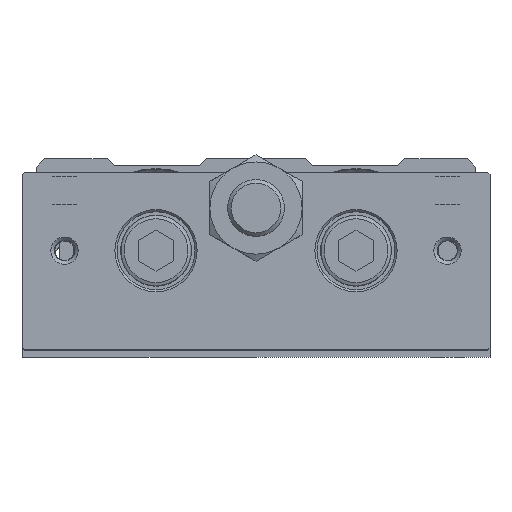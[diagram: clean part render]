
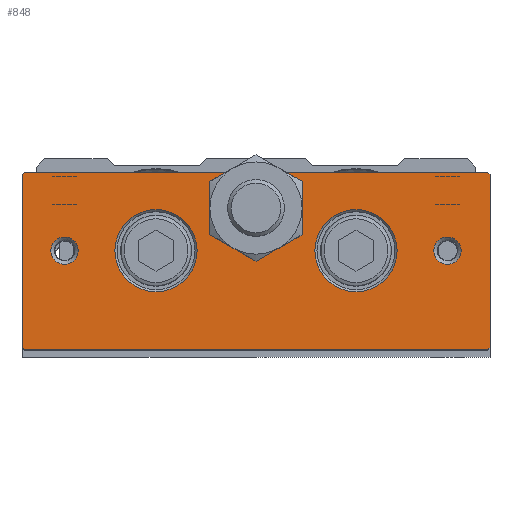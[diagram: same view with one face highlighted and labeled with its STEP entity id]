
A CAD part, top view. The second image highlights one B-rep face of the part: STEP entity #848.
In plain terms, the highlighted planar face has unit normal (0, 0, 1).
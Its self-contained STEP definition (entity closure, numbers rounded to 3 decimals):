
#629=CARTESIAN_POINT('',(-32.7,-14.5,320.));
#630=VERTEX_POINT('',#629);
#637=CARTESIAN_POINT('',(-33.0,-14.2,320.));
#638=VERTEX_POINT('',#637);
#639=CARTESIAN_POINT('',(-32.7,-14.5,320.));
#640=DIRECTION('',(-0.707,0.707,0.0));
#641=VECTOR('',#640,0.424);
#642=LINE('',#639,#641);
#643=EDGE_CURVE('',#630,#638,#642,.T.);
#660=CARTESIAN_POINT('',(-33.0,10.2,320.));
#661=VERTEX_POINT('',#660);
#662=CARTESIAN_POINT('',(-33.0,10.2,320.));
#663=DIRECTION('',(0.0,-1.0,0.0));
#664=VECTOR('',#663,24.4);
#665=LINE('',#662,#664);
#666=EDGE_CURVE('',#661,#638,#665,.T.);
#696=CARTESIAN_POINT('',(0.0,-14.5,320.));
#697=DIRECTION('',(0.0,0.0,1.0));
#698=DIRECTION('',(1.0,0.0,0.0));
#699=AXIS2_PLACEMENT_3D('',#696,#697,#698);
#700=PLANE('',#699);
#701=ORIENTED_EDGE('',*,*,#643,.F.);
#702=CARTESIAN_POINT('',(32.7,-14.5,320.));
#703=VERTEX_POINT('',#702);
#704=CARTESIAN_POINT('',(-32.7,-14.5,320.));
#705=DIRECTION('',(1.0,0.0,0.0));
#706=VECTOR('',#705,65.4);
#707=LINE('',#704,#706);
#708=EDGE_CURVE('',#630,#703,#707,.T.);
#709=ORIENTED_EDGE('',*,*,#708,.T.);
#710=CARTESIAN_POINT('',(33.0,-14.2,320.));
#711=VERTEX_POINT('',#710);
#712=CARTESIAN_POINT('',(33.0,-14.2,320.));
#713=DIRECTION('',(-0.707,-0.707,0.0));
#714=VECTOR('',#713,0.424);
#715=LINE('',#712,#714);
#716=EDGE_CURVE('',#711,#703,#715,.T.);
#717=ORIENTED_EDGE('',*,*,#716,.F.);
#718=CARTESIAN_POINT('',(33.0,10.2,320.));
#719=VERTEX_POINT('',#718);
#720=CARTESIAN_POINT('',(33.0,-14.2,320.));
#721=DIRECTION('',(0.0,1.0,0.0));
#722=VECTOR('',#721,24.4);
#723=LINE('',#720,#722);
#724=EDGE_CURVE('',#711,#719,#723,.T.);
#725=ORIENTED_EDGE('',*,*,#724,.T.);
#726=CARTESIAN_POINT('',(32.7,10.5,320.));
#727=VERTEX_POINT('',#726);
#728=CARTESIAN_POINT('',(32.7,10.5,320.));
#729=DIRECTION('',(0.707,-0.707,0.0));
#730=VECTOR('',#729,0.424);
#731=LINE('',#728,#730);
#732=EDGE_CURVE('',#727,#719,#731,.T.);
#733=ORIENTED_EDGE('',*,*,#732,.F.);
#734=CARTESIAN_POINT('',(4.153,10.5,320.));
#735=VERTEX_POINT('',#734);
#736=CARTESIAN_POINT('',(32.7,10.5,320.));
#737=DIRECTION('',(-1.0,0.0,0.0));
#738=VECTOR('',#737,28.547);
#739=LINE('',#736,#738);
#740=EDGE_CURVE('',#727,#735,#739,.T.);
#741=ORIENTED_EDGE('',*,*,#740,.T.);
#742=CARTESIAN_POINT('',(6.5,5.5,320.));
#743=VERTEX_POINT('',#742);
#744=CARTESIAN_POINT('',(0.0,5.5,320.));
#745=DIRECTION('',(0.0,0.0,1.0));
#746=DIRECTION('',(0.0,1.0,0.0));
#747=AXIS2_PLACEMENT_3D('',#744,#745,#746);
#748=CIRCLE('',#747,6.5);
#749=EDGE_CURVE('',#743,#735,#748,.T.);
#750=ORIENTED_EDGE('',*,*,#749,.F.);
#751=CARTESIAN_POINT('',(3.25,-0.129,320.));
#752=VERTEX_POINT('',#751);
#753=CARTESIAN_POINT('',(0.0,5.5,320.));
#754=DIRECTION('',(0.0,0.0,1.0));
#755=DIRECTION('',(0.0,1.0,0.0));
#756=AXIS2_PLACEMENT_3D('',#753,#754,#755);
#757=CIRCLE('',#756,6.5);
#758=EDGE_CURVE('',#752,#743,#757,.T.);
#759=ORIENTED_EDGE('',*,*,#758,.F.);
#760=CARTESIAN_POINT('',(-3.25,-0.129,320.));
#761=VERTEX_POINT('',#760);
#762=CARTESIAN_POINT('',(0.0,5.5,320.));
#763=DIRECTION('',(0.0,0.0,1.0));
#764=DIRECTION('',(0.0,1.0,0.0));
#765=AXIS2_PLACEMENT_3D('',#762,#763,#764);
#766=CIRCLE('',#765,6.5);
#767=EDGE_CURVE('',#761,#752,#766,.T.);
#768=ORIENTED_EDGE('',*,*,#767,.F.);
#769=CARTESIAN_POINT('',(-6.5,5.5,320.));
#770=VERTEX_POINT('',#769);
#771=CARTESIAN_POINT('',(0.0,5.5,320.));
#772=DIRECTION('',(0.0,0.0,1.0));
#773=DIRECTION('',(0.0,1.0,0.0));
#774=AXIS2_PLACEMENT_3D('',#771,#772,#773);
#775=CIRCLE('',#774,6.5);
#776=EDGE_CURVE('',#770,#761,#775,.T.);
#777=ORIENTED_EDGE('',*,*,#776,.F.);
#778=CARTESIAN_POINT('',(-4.153,10.5,320.));
#779=VERTEX_POINT('',#778);
#780=CARTESIAN_POINT('',(0.0,5.5,320.));
#781=DIRECTION('',(0.0,0.0,1.0));
#782=DIRECTION('',(0.0,1.0,0.0));
#783=AXIS2_PLACEMENT_3D('',#780,#781,#782);
#784=CIRCLE('',#783,6.5);
#785=EDGE_CURVE('',#779,#770,#784,.T.);
#786=ORIENTED_EDGE('',*,*,#785,.F.);
#787=CARTESIAN_POINT('',(-32.7,10.5,320.));
#788=VERTEX_POINT('',#787);
#789=CARTESIAN_POINT('',(-4.153,10.5,320.));
#790=DIRECTION('',(-1.0,0.0,0.0));
#791=VECTOR('',#790,28.547);
#792=LINE('',#789,#791);
#793=EDGE_CURVE('',#779,#788,#792,.T.);
#794=ORIENTED_EDGE('',*,*,#793,.T.);
#795=CARTESIAN_POINT('',(-33.0,10.2,320.));
#796=DIRECTION('',(0.707,0.707,0.0));
#797=VECTOR('',#796,0.424);
#798=LINE('',#795,#797);
#799=EDGE_CURVE('',#661,#788,#798,.T.);
#800=ORIENTED_EDGE('',*,*,#799,.F.);
#801=ORIENTED_EDGE('',*,*,#666,.T.);
#802=EDGE_LOOP('',(#701,#709,#717,#725,#733,#741,#750,#759,#768,#777,#786,#794,#800,#801));
#803=FACE_OUTER_BOUND('',#802,.T.);
#804=CARTESIAN_POINT('',(19.9,-0.5,320.));
#805=VERTEX_POINT('',#804);
#806=CARTESIAN_POINT('',(14.1,-0.5,320.));
#807=DIRECTION('',(0.0,0.0,1.0));
#808=DIRECTION('',(-1.0,0.0,0.0));
#809=AXIS2_PLACEMENT_3D('',#806,#807,#808);
#810=CIRCLE('',#809,5.8);
#811=EDGE_CURVE('',#805,#805,#810,.T.);
#812=ORIENTED_EDGE('',*,*,#811,.F.);
#813=EDGE_LOOP('',(#812));
#814=FACE_BOUND('',#813,.T.);
#815=CARTESIAN_POINT('',(28.925,-0.5,320.));
#816=VERTEX_POINT('',#815);
#817=CARTESIAN_POINT('',(27.,-0.5,320.));
#818=DIRECTION('',(0.0,0.0,1.0));
#819=DIRECTION('',(-1.0,0.0,0.0));
#820=AXIS2_PLACEMENT_3D('',#817,#818,#819);
#821=CIRCLE('',#820,1.925);
#822=EDGE_CURVE('',#816,#816,#821,.T.);
#823=ORIENTED_EDGE('',*,*,#822,.F.);
#824=EDGE_LOOP('',(#823));
#825=FACE_BOUND('',#824,.T.);
#826=CARTESIAN_POINT('',(-25.075,-0.5,320.));
#827=VERTEX_POINT('',#826);
#828=CARTESIAN_POINT('',(-27.0,-0.5,320.));
#829=DIRECTION('',(0.0,0.0,1.0));
#830=DIRECTION('',(-1.0,0.0,0.0));
#831=AXIS2_PLACEMENT_3D('',#828,#829,#830);
#832=CIRCLE('',#831,1.925);
#833=EDGE_CURVE('',#827,#827,#832,.T.);
#834=ORIENTED_EDGE('',*,*,#833,.F.);
#835=EDGE_LOOP('',(#834));
#836=FACE_BOUND('',#835,.T.);
#837=CARTESIAN_POINT('',(-8.3,-0.5,320.));
#838=VERTEX_POINT('',#837);
#839=CARTESIAN_POINT('',(-14.1,-0.5,320.));
#840=DIRECTION('',(0.0,0.0,1.0));
#841=DIRECTION('',(-1.0,0.0,0.0));
#842=AXIS2_PLACEMENT_3D('',#839,#840,#841);
#843=CIRCLE('',#842,5.8);
#844=EDGE_CURVE('',#838,#838,#843,.T.);
#845=ORIENTED_EDGE('',*,*,#844,.F.);
#846=EDGE_LOOP('',(#845));
#847=FACE_BOUND('',#846,.T.);
#848=ADVANCED_FACE('',(#803,#814,#825,#836,#847),#700,.T.);
